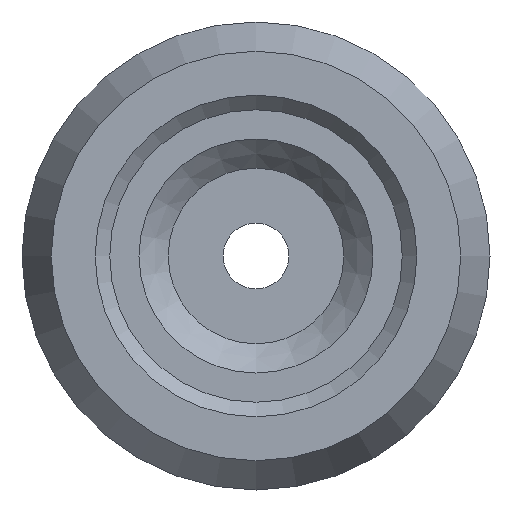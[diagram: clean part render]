
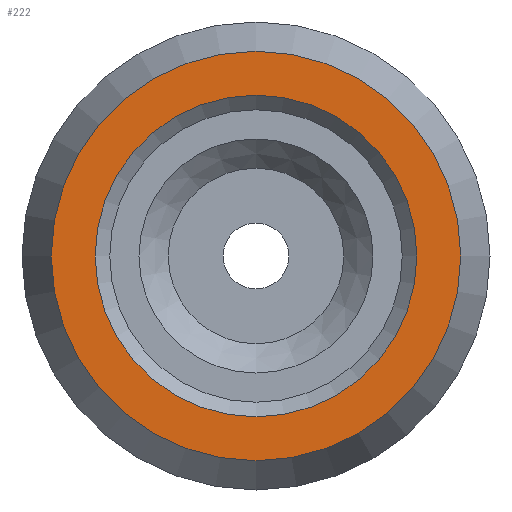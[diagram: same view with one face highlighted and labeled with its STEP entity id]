
A CAD part, left-side view. The second image highlights one B-rep face of the part: STEP entity #222.
In plain terms, the highlighted planar face has unit normal (-1, 0, 0).
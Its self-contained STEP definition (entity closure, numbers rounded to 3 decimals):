
#21=FACE_BOUND('',#81,.T.);
#27=PLANE('',#275);
#62=FACE_OUTER_BOUND('',#80,.T.);
#80=EDGE_LOOP('',(#188));
#81=EDGE_LOOP('',(#189));
#102=CIRCLE('',#270,11.);
#106=CIRCLE('',#276,14.);
#120=VERTEX_POINT('',#399);
#124=VERTEX_POINT('',#411);
#142=EDGE_CURVE('',#120,#120,#102,.T.);
#148=EDGE_CURVE('',#124,#124,#106,.T.);
#188=ORIENTED_EDGE('',*,*,#148,.T.);
#189=ORIENTED_EDGE('',*,*,#142,.F.);
#222=ADVANCED_FACE('',(#62,#21),#27,.T.);
#270=AXIS2_PLACEMENT_3D('',#400,#327,#328);
#275=AXIS2_PLACEMENT_3D('',#410,#339,#340);
#276=AXIS2_PLACEMENT_3D('',#412,#341,#342);
#327=DIRECTION('center_axis',(-1.,0.,0.));
#328=DIRECTION('ref_axis',(0.,0.,-1.));
#339=DIRECTION('center_axis',(-1.,0.,0.));
#340=DIRECTION('ref_axis',(0.,0.,1.));
#341=DIRECTION('center_axis',(-1.,0.,0.));
#342=DIRECTION('ref_axis',(0.,0.,1.));
#399=CARTESIAN_POINT('',(0.,0.,11.));
#400=CARTESIAN_POINT('Origin',(0.,0.,0.));
#410=CARTESIAN_POINT('Origin',(0.,0.,7.));
#411=CARTESIAN_POINT('',(0.,0.,-14.));
#412=CARTESIAN_POINT('Origin',(0.,0.,0.));
